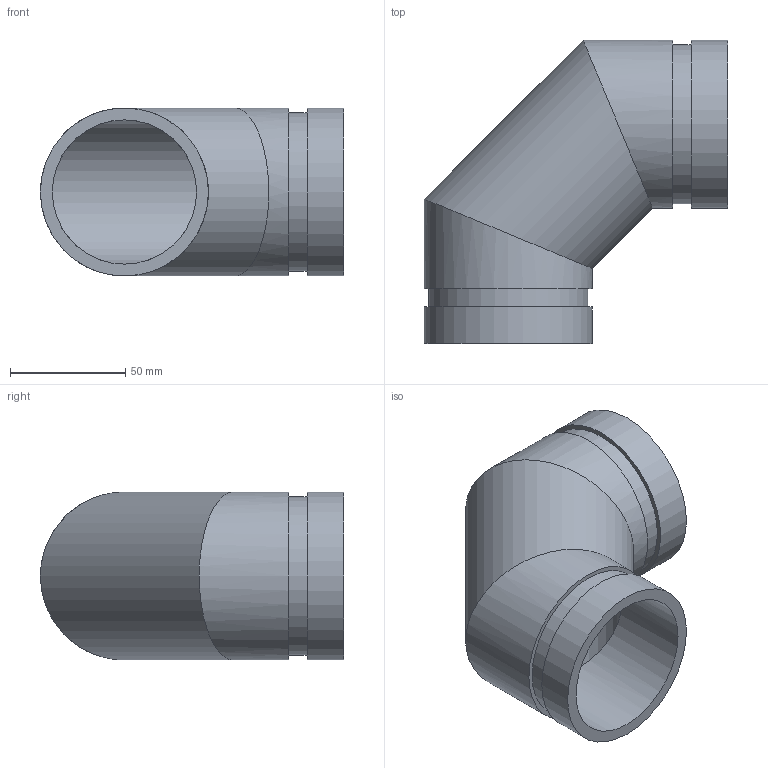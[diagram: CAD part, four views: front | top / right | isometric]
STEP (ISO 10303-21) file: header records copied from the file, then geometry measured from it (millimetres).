
FILE_DESCRIPTION(/* description */ ('VIC 90 DEG ELBOW FABRICATED No 10 SWS (OGS)','CAx-IF Rec.Pracs.---Representation and Presentation of Product Manufacturing Information (PMI)---4.0---2014-10-13'),/* implementation_level */ '2;1');
FILE_NAME(/* name */ 'C:\Users\kkamble\AppData\Roaming\Autodesk\ApplicationPlugins\Back Up\Victaulic_IPS_Elbow 90 Deg_No 10 SWS (OGS)\Victaulic_IPS_Elbow 90 Deg_No 10 SWS (OGS)_2.5 (65).stp',/* time_stamp */ '2020-09-16T22:17:30+06:00',/* author */ ('cgray'),/* organization */ ('Victaulic'),/* preprocessor_version */ 'ST-DEVELOPER v17.2',/* originating_system */ 'Autodesk Inventor 2019',/* authorisation */ '');
FILE_SCHEMA (('AP242_MANAGED_MODEL_BASED_3D_ENGINEERING_MIM_LF { 1 0 10303 442 1 1 4 }'));
Length unit declared in the file: inch
Products named in the file (1): 10 SWS-02.5
Bounding box: 131.76 x 131.76 x 73.03 mm (x, y, z)
Volume: 171775 mm3; surface area: 73098.5 mm2
Topology: 1 solids, 1 shells, 16 faces, 38 edges, 28 vertices
Faces by surface type: cylinder 10, plane 6
Full cylindrical faces by diameter (mm): 62.713 x3, 69.088 x2, 73.025 x5
Entity records: 646 total; most frequent: DIRECTION 126, CARTESIAN_POINT 100, ORIENTED_EDGE 76, AXIS2_PLACEMENT_3D 58, EDGE_CURVE 38, VERTEX_POINT 28, EDGE_LOOP 22, STYLED_ITEM 18
